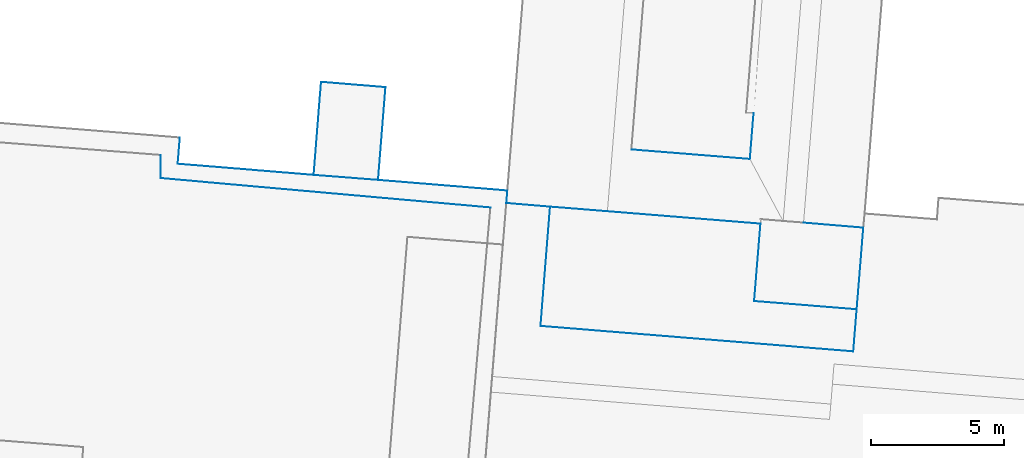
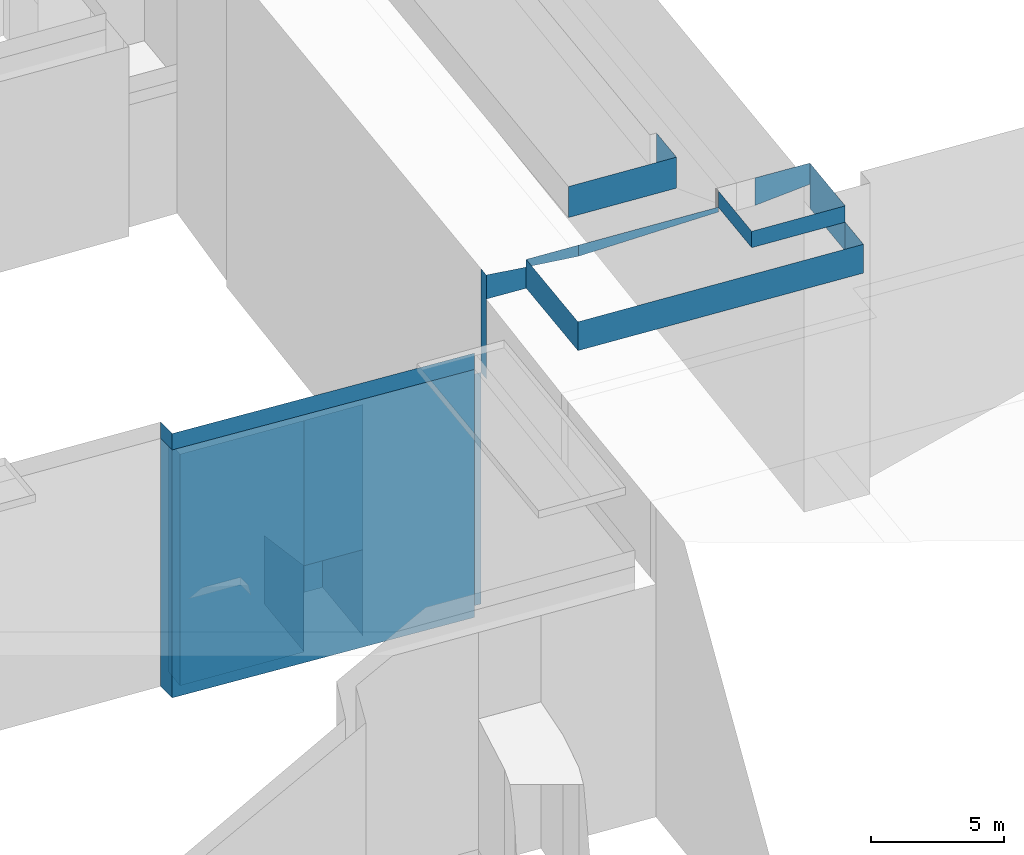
# Not in any storey, part 71 of 136: 26 walls.
"""IFC4 building model written with IfcOpenShell, lengths in metres."""

import ifcopenshell
import ifcopenshell.guid

model = None  # the IFC model being written
_history = None  # IfcOwnerHistory: only IFC2X3 demands one
_inside = {}  # id of a spatial element -> (the spatial element, [elements in it])
_under = {}  # id of a project, library or spatial element -> (it, [spatial elements below it])
_declared = {}  # id of a project -> (the project, [libraries it declares])
_typed = {}  # id of a type object -> (the type object, [elements of that type])
_made_of = {}  # id of a material, layer set ... -> (it, [elements and type objects made of it])


def new_model(schema):
    """Start an empty IFC model of exactly this schema.

    Asked for "IFC4X3", IfcOpenShell would pick the latest addendum, in which some entities
    have other attributes; the version numbers below select the first issue.
    IFC2X3 requires an IfcOwnerHistory on every rooted entity: one is made here for all.
    """
    global model, _history
    if schema == "IFC4X3":
        model = ifcopenshell.file(schema_version=(4, 3, 0, 0))
    else:
        model = ifcopenshell.file(schema=schema)
    _inside.clear()
    _under.clear()
    _declared.clear()
    _typed.clear()
    _made_of.clear()
    _history = None
    if model.schema == "IFC2X3":
        org = make("IfcOrganization", Name="unknown")
        user = make(
            "IfcPersonAndOrganization",
            ThePerson=make("IfcPerson", FamilyName="unknown"),
            TheOrganization=org,
        )
        app = make(
            "IfcApplication",
            ApplicationDeveloper=org,
            Version="unknown",
            ApplicationFullName="unknown",
            ApplicationIdentifier="unknown",
        )
        _history = make(
            "IfcOwnerHistory",
            OwningUser=user,
            OwningApplication=app,
            ChangeAction="ADDED",
            CreationDate=0,
        )
    return model


def make(cls, **values):
    """One entity of the class cls with the attributes given. An attribute that is None is left unset."""
    return model.create_entity(
        cls, **{name: value for name, value in values.items() if value is not None}
    )


def entity(cls, *values):
    """Any entity or typed value of the class cls, its attributes in the order of the schema. None: left unset."""
    e = model.create_entity(cls)
    for i, value in enumerate(values):
        if value is not None:
            e[i] = value
    return e


def rooted(cls, **values):
    """An entity with a GlobalId (a new one), such as an element, a storey or a relation."""
    return make(cls, GlobalId=ifcopenshell.guid.new(), OwnerHistory=_history, **values)


def si_unit(unit_type, name, prefix=None):
    """IfcSIUnit, for example si_unit("LENGTHUNIT", "METRE", prefix="MILLI")."""
    return make("IfcSIUnit", UnitType=unit_type, Prefix=prefix, Name=name)


def converted_unit(unit_type, name, factor, base, dimensions=None, offset=None):
    """IfcConversionBasedUnit, such as the inch: factor (a typed value) times the base unit."""
    return make(
        "IfcConversionBasedUnit"
        if offset is None
        else "IfcConversionBasedUnitWithOffset",
        ConversionOffset=offset,
        Dimensions=None
        if dimensions is None
        else entity("IfcDimensionalExponents", *dimensions),
        UnitType=unit_type,
        Name=name,
        ConversionFactor=make(
            "IfcMeasureWithUnit", ValueComponent=factor, UnitComponent=base
        ),
    )


def assignment(units):
    """IfcUnitAssignment: the units of a project."""
    return None if units is None else make("IfcUnitAssignment", Units=units)


def point(xyz):
    """IfcCartesianPoint."""
    return None if xyz is None else make("IfcCartesianPoint", Coordinates=xyz)


def direction(xyz):
    """IfcDirection."""
    return None if xyz is None else make("IfcDirection", DirectionRatios=xyz)


def frame(location, z_axis=None, x_axis=None):
    """IfcAxis2Placement3D, a coordinate frame: its origin and axes. An axis left out is left unset."""
    return make(
        "IfcAxis2Placement3D",
        Location=point(location),
        Axis=direction(z_axis),
        RefDirection=direction(x_axis),
    )


def origin():
    """The frame at (0, 0, 0) with its axes left unset."""
    return frame((0.0, 0.0, 0.0))


def place(relative_to, where):
    """IfcLocalPlacement: puts the frame where relative to a parent placement (None: the world)."""
    return make(
        "IfcLocalPlacement", PlacementRelTo=relative_to, RelativePlacement=where
    )


def context(
    kind, dimensions, precision=None, world=None, true_north=None, identifier=None
):
    """IfcGeometricRepresentationContext, for example the 3D "Model" context."""
    return make(
        "IfcGeometricRepresentationContext",
        ContextIdentifier=identifier,
        ContextType=kind,
        CoordinateSpaceDimension=dimensions,
        Precision=precision,
        WorldCoordinateSystem=world,
        TrueNorth=true_north,
    )


def subcontext(parent, identifier, kind, view, scale=None):
    """IfcGeometricRepresentationSubContext, for example "Body" below "Model"."""
    return make(
        "IfcGeometricRepresentationSubContext",
        ContextIdentifier=identifier,
        ContextType=kind,
        ParentContext=parent,
        TargetScale=scale,
        TargetView=view,
    )


def project(units=None, contexts=None):
    """IfcProject with its units and contexts."""
    return rooted(
        "IfcProject",
        Name="project",
        RepresentationContexts=contexts,
        UnitsInContext=assignment(units),
    )


def spatial(cls, under=None, at=None, **own):
    """A site, building, storey or space (cls), placed at a placement, below another one or the project."""
    s = rooted(cls, ObjectPlacement=at, **own)
    if under is not None:
        _under.setdefault(under.id(), (under, []))[1].append(s)
    return s


def faces_of(points, faces, orient=None, outer=None):
    """IfcFace entities. A face is a list of loops; a loop is a list of indices into points, from 0.

    orient and outer hold one flag for each loop. By default every Orientation is true, the
    first loop of a face is its IfcFaceOuterBound and the others are IfcFaceBound.
    """
    made = []
    for i, loops in enumerate(faces):
        bounds = []
        for j, loop in enumerate(loops):
            is_outer = j == 0 if outer is None else outer[i][j]
            bounds.append(
                make(
                    "IfcFaceOuterBound" if is_outer else "IfcFaceBound",
                    Bound=make("IfcPolyLoop", Polygon=[points[k] for k in loop]),
                    Orientation=True if orient is None else orient[i][j],
                )
            )
        made.append(make("IfcFace", Bounds=bounds))
    return made


def face_set(faces, orient=None, outer=None):
    """The faces of one IfcConnectedFaceSet. surface_model builds it on its shared points."""
    return ("IfcConnectedFaceSet", faces, orient, outer)


def surface_model(cls, points, shells):
    """IfcFaceBasedSurfaceModel or IfcShellBasedSurfaceModel (cls): surfaces that need not close."""
    shared = [point(p) for p in points]
    made = [make(c, CfsFaces=faces_of(shared, fs, o, b)) for c, fs, o, b in shells]
    if cls == "IfcFaceBasedSurfaceModel":
        return make(cls, FbsmFaces=made)
    return make(cls, SbsmBoundary=made)


def shape(context_of_items, identifier, shape_type, items):
    """IfcShapeRepresentation: the items that make up one representation, for example the "Body"."""
    return make(
        "IfcShapeRepresentation",
        ContextOfItems=context_of_items,
        RepresentationIdentifier=identifier,
        RepresentationType=shape_type,
        Items=items,
    )


def made_of(thing, what):
    """Note that an element or type object is made of a material, layer set ...; save() writes the relation."""
    if what is not None:
        _made_of.setdefault(what.id(), (what, []))[1].append(thing)
    return thing


def element(
    cls,
    number,
    at=None,
    inside=None,
    cuts=None,
    type_object=None,
    material=None,
    context=None,
    identifier="Body",
    shape_type=None,
    held_by="IfcProductDefinitionShape",
    body=None,
    shapes=None,
    **own,
):
    """One element of the class cls, such as IfcWall. Its Tag is "e" and its number.

    at: its placement. inside: the storey or other place that contains it. cuts: it is an
    opening in that element (IfcRelVoidsElement). A single representation is given by context,
    identifier, shape_type and body (its items); several are given by shapes. held_by: the class
    of the entity that holds the representations. save() writes the other relations.
    """
    e = rooted(cls, Tag="e%d" % number, ObjectPlacement=at, **own)
    if body is not None:
        shapes = [shape(context, identifier, shape_type, body)]
    if shapes is not None:
        e.Representation = make(held_by, Representations=shapes)
    if inside is not None:
        _inside.setdefault(inside.id(), (inside, []))[1].append(e)
    if cuts is not None:
        rooted(
            "IfcRelVoidsElement", RelatingBuildingElement=cuts, RelatedOpeningElement=e
        )
    if type_object is not None:
        _typed.setdefault(type_object.id(), (type_object, []))[1].append(e)
    return made_of(e, material)


def aggregate(whole, parts):
    """IfcRelAggregates: a whole, such as a stair, and the parts it consists of."""
    return rooted("IfcRelAggregates", RelatingObject=whole, RelatedObjects=parts)


def save(model, path):
    """Write the relations noted so far, then the file.

    IfcRelAggregates (storeys below a building ...), IfcRelContainedInSpatialStructure (elements
    in a storey), IfcRelDefinesByType, IfcRelAssociatesMaterial and IfcRelDeclares: one each for
    every whole, place, type object, material and project.
    """
    for whole, parts in _under.values():
        aggregate(whole, parts)
    for where, things in _inside.values():
        rooted(
            "IfcRelContainedInSpatialStructure",
            RelatedElements=things,
            RelatingStructure=where,
        )
    for kind, things in _typed.values():
        rooted("IfcRelDefinesByType", RelatedObjects=things, RelatingType=kind)
    for what, things in _made_of.values():
        rooted("IfcRelAssociatesMaterial", RelatedObjects=things, RelatingMaterial=what)
    for by, libraries in _declared.values():
        rooted("IfcRelDeclares", RelatingContext=by, RelatedDefinitions=libraries)
    model.write(path)


model = new_model("IFC4")

# Units and contexts
model_context = context("Model", 3, precision=1e-05, world=origin())
body_context = subcontext(model_context, "Body", "Model", "MODEL_VIEW")
ifc_project = project(units=[converted_unit("PLANEANGLEUNIT", "DEGREE", entity("IfcRatioMeasure", 0.0174532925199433), si_unit("PLANEANGLEUNIT", "RADIAN"), dimensions=[0, 0, 0, 0, 0, 0, 0]), si_unit("AREAUNIT", "SQUARE_METRE"), si_unit("LENGTHUNIT", "METRE")], contexts=[model_context])

# Site, building
site_placement = place(None, origin())
site = spatial("IfcSite", under=ifc_project, at=site_placement, Name="_site")
building_placement = place(site_placement, origin())
building = spatial("IfcBuilding", under=site, at=building_placement, Name="_building")

# Walls
wall_1_placement = place(building_placement, origin())
element("IfcWall", 1, at=wall_1_placement, inside=building, Name="Wall", PredefinedType="NOTDEFINED", context=body_context, shape_type="SurfaceModel", body=[
    surface_model("IfcFaceBasedSurfaceModel", [(224.3, 64.919, 54.32), (226.56, 64.73, 54.32), (226.56, 64.73, 53.35), (224.3, 64.919, 53.06)], [face_set([[[0, 1, 2, 3]]])]),
])
wall_2_placement = place(building_placement, origin())
element("IfcWall", 2, at=wall_2_placement, inside=building, Name="Wall", PredefinedType="NOTDEFINED", context=body_context, shape_type="SurfaceModel", body=[
    surface_model("IfcFaceBasedSurfaceModel", [(226.18, 60.061, 53.57), (214.38, 61.021, 53.57), (214.38, 61.021, 52.25), (226.18, 60.061, 52.25)], [face_set([[[0, 1, 2, 3]]])]),
])
wall_3_placement = place(building_placement, origin())
element("IfcWall", 3, at=wall_3_placement, inside=building, Name="Wall", PredefinedType="NOTDEFINED", context=body_context, shape_type="SurfaceModel", body=[
    surface_model("IfcFaceBasedSurfaceModel", [(208.25, 66.53, 48.6), (213.13, 66.13, 48.6), (213.13, 66.13, 38.0), (208.25, 66.53, 38.0)], [face_set([[[0, 1, 2, 3]]])]),
])
wall_4_placement = place(building_placement, origin())
element("IfcWall", 4, at=wall_4_placement, inside=building, Name="Wall", PredefinedType="NOTDEFINED", context=body_context, shape_type="SurfaceModel", body=[
    surface_model("IfcFaceBasedSurfaceModel", [(222.44, 61.96, 54.32), (222.68, 64.88, 54.32), (222.68, 64.88, 53.57), (222.44, 61.96, 53.57)], [face_set([[[0, 1, 2, 3]]])]),
])
wall_5_placement = place(building_placement, origin())
element("IfcWall", 5, at=wall_5_placement, inside=building, Name="Wall", PredefinedType="NOTDEFINED", context=body_context, shape_type="SurfaceModel", body=[
    surface_model("IfcFaceBasedSurfaceModel", [(226.31, 61.65, 54.32), (222.44, 61.96, 54.32), (222.44, 61.96, 53.57), (226.31, 61.65, 53.57)], [face_set([[[0, 1, 2, 3]]])]),
])
wall_6_placement = place(building_placement, origin())
element("IfcWall", 6, at=wall_6_placement, inside=building, Name="Wall", PredefinedType="NOTDEFINED", context=body_context, shape_type="SurfaceModel", body=[
    surface_model("IfcFaceBasedSurfaceModel", [(205.82, 66.72, 48.6), (208.25, 66.53, 48.6), (208.25, 66.53, 41.95), (205.82, 66.72, 41.95)], [face_set([[[0, 1, 2, 3]]])]),
])
wall_7_placement = place(building_placement, origin())
element("IfcWall", 7, at=wall_7_placement, inside=building, Name="Wall", PredefinedType="NOTDEFINED", context=body_context, shape_type="SurfaceModel", body=[
    surface_model("IfcFaceBasedSurfaceModel", [(206.1, 70.23, 41.13), (208.53, 70.03, 41.13), (208.53, 70.03, 38.0), (206.1, 70.23, 38.0)], [face_set([[[0, 1, 2, 3]]])]),
])
wall_8_placement = place(building_placement, origin())
element("IfcWall", 8, at=wall_8_placement, inside=building, Name="Wall", PredefinedType="NOTDEFINED", context=body_context, shape_type="SurfaceModel", body=[
    surface_model("IfcFaceBasedSurfaceModel", [(200.04, 66.601, 49.344), (212.49, 65.49, 49.344), (212.49, 65.49, 50.094), (200.04, 66.601, 50.094)], [face_set([[[0, 1, 2, 3]]])]),
])
wall_9_placement = place(building_placement, origin())
element("IfcWall", 9, at=wall_9_placement, inside=building, Name="Wall", PredefinedType="NOTDEFINED", context=body_context, shape_type="SurfaceModel", body=[
    surface_model("IfcFaceBasedSurfaceModel", [(200.04, 67.47, 49.344), (200.04, 66.601, 49.344), (200.04, 66.601, 50.094), (200.04, 67.47, 50.094)], [face_set([[[0, 1, 2, 3]]])]),
])
wall_10_placement = place(building_placement, origin())
element("IfcWall", 10, at=wall_10_placement, inside=building, Name="Wall", PredefinedType="NOTDEFINED", context=body_context, shape_type="SurfaceModel", body=[
    surface_model("IfcFaceBasedSurfaceModel", [(222.42, 69.061, 54.52), (222.28, 67.32, 54.52), (222.28, 67.32, 53.1), (222.42, 69.061, 53.1)], [face_set([[[0, 1, 2, 3]]])]),
])
wall_11_placement = place(building_placement, origin())
element("IfcWall", 11, at=wall_11_placement, inside=building, Name="Wall", PredefinedType="NOTDEFINED", context=body_context, shape_type="SurfaceModel", body=[
    surface_model("IfcFaceBasedSurfaceModel", [(216.9, 65.349, 53.57), (222.68, 64.88, 53.57), (222.68, 64.88, 53.35), (216.9, 65.349, 53.06)], [face_set([[[0, 1, 2, 3]]])]),
])
wall_12_placement = place(building_placement, origin())
element("IfcWall", 12, at=wall_12_placement, inside=building, Name="Wall", PredefinedType="NOTDEFINED", context=body_context, shape_type="SurfaceModel", body=[
    surface_model("IfcFaceBasedSurfaceModel", [(214.74, 65.521, 53.57), (216.9, 65.349, 53.57), (216.9, 65.349, 53.06), (214.74, 65.521, 53.22)], [face_set([[[0, 1, 2, 3]]])]),
])
wall_13_placement = place(building_placement, origin())
element("IfcWall", 13, at=wall_13_placement, inside=building, Name="Wall", PredefinedType="NOTDEFINED", context=body_context, shape_type="SurfaceModel", body=[
    surface_model("IfcFaceBasedSurfaceModel", [(200.69, 67.14, 48.6), (205.82, 66.72, 48.6), (205.82, 66.72, 38.0), (200.69, 67.14, 38.0)], [face_set([[[0, 1, 2, 3]]])]),
])
wall_14_placement = place(building_placement, origin())
element("IfcWall", 14, at=wall_14_placement, inside=building, Name="Wall", PredefinedType="NOTDEFINED", context=body_context, shape_type="SurfaceModel", body=[
    surface_model("IfcFaceBasedSurfaceModel", [(200.04, 67.47, 49.344), (200.04, 66.601, 49.344), (200.04, 66.601, 38.0), (200.04, 67.47, 38.0)], [face_set([[[0, 1, 2, 3]]])]),
])
wall_15_placement = place(building_placement, origin())
element("IfcWall", 15, at=wall_15_placement, inside=building, Name="Wall", PredefinedType="NOTDEFINED", context=body_context, shape_type="SurfaceModel", body=[
    surface_model("IfcFaceBasedSurfaceModel", [(213.09, 65.66, 53.35), (213.13, 66.13, 53.35), (213.13, 66.13, 48.6), (213.09, 65.66, 48.6)], [face_set([[[0, 1, 2, 3]]])]),
])
wall_16_placement = place(building_placement, origin())
element("IfcWall", 16, at=wall_16_placement, inside=building, Name="Wall", PredefinedType="NOTDEFINED", context=body_context, shape_type="SurfaceModel", body=[
    surface_model("IfcFaceBasedSurfaceModel", [(200.04, 67.47, 49.344), (200.04, 66.601, 49.344), (200.04, 66.601, 50.094), (200.04, 67.47, 50.094)], [face_set([[[0, 1, 2, 3]]])]),
])
wall_17_placement = place(building_placement, origin())
element("IfcWall", 17, at=wall_17_placement, inside=building, Name="Wall", PredefinedType="NOTDEFINED", context=body_context, shape_type="SurfaceModel", body=[
    surface_model("IfcFaceBasedSurfaceModel", [(200.77, 68.13, 48.6), (200.69, 67.14, 48.6), (200.69, 67.14, 38.0), (200.77, 68.13, 38.0)], [face_set([[[0, 1, 2, 3]]])]),
])
wall_18_placement = place(building_placement, origin())
element("IfcWall", 18, at=wall_18_placement, inside=building, Name="Wall", PredefinedType="NOTDEFINED", context=body_context, shape_type="SurfaceModel", body=[
    surface_model("IfcFaceBasedSurfaceModel", [(226.56, 64.73, 54.32), (226.31, 61.65, 54.32), (226.31, 61.65, 52.25), (226.56, 64.73, 52.25)], [face_set([[[0, 1, 2, 3]]])]),
])
wall_19_placement = place(building_placement, origin())
element("IfcWall", 19, at=wall_19_placement, inside=building, Name="Wall", PredefinedType="NOTDEFINED", context=body_context, shape_type="SurfaceModel", body=[
    surface_model("IfcFaceBasedSurfaceModel", [(222.28, 67.32, 54.52), (217.81, 67.68, 54.52), (217.81, 67.68, 53.1), (222.28, 67.32, 53.1)], [face_set([[[0, 1, 2, 3]]])]),
])
wall_20_placement = place(building_placement, origin())
element("IfcWall", 20, at=wall_20_placement, inside=building, Name="Wall", PredefinedType="NOTDEFINED", context=body_context, shape_type="SurfaceModel", body=[
    surface_model("IfcFaceBasedSurfaceModel", [(214.74, 65.521, 53.22), (213.09, 65.66, 53.35), (213.09, 65.66, 52.25), (214.74, 65.521, 52.25)], [face_set([[[0, 1, 2, 3]]])]),
])
wall_21_placement = place(building_placement, origin())
element("IfcWall", 21, at=wall_21_placement, inside=building, Name="Wall", PredefinedType="NOTDEFINED", context=body_context, shape_type="SurfaceModel", body=[
    surface_model("IfcFaceBasedSurfaceModel", [(200.04, 66.601, 49.344), (212.49, 65.49, 49.344), (212.49, 65.49, 50.094), (200.04, 66.601, 50.094)], [face_set([[[0, 1, 2, 3]]])]),
])
wall_22_placement = place(building_placement, origin())
element("IfcWall", 22, at=wall_22_placement, inside=building, Name="Wall", PredefinedType="NOTDEFINED", context=body_context, shape_type="SurfaceModel", body=[
    surface_model("IfcFaceBasedSurfaceModel", [(200.04, 66.601, 49.344), (212.49, 65.49, 49.344), (212.49, 65.49, 38.0), (200.04, 66.601, 38.0)], [face_set([[[0, 1, 2, 3]]])]),
])
wall_23_placement = place(building_placement, origin())
element("IfcWall", 23, at=wall_23_placement, inside=building, Name="Wall", PredefinedType="NOTDEFINED", context=body_context, shape_type="SurfaceModel", body=[
    surface_model("IfcFaceBasedSurfaceModel", [(226.31, 61.65, 53.57), (226.18, 60.061, 53.57), (226.18, 60.061, 52.25), (226.31, 61.65, 52.25)], [face_set([[[0, 1, 2, 3]]])]),
])
wall_24_placement = place(building_placement, origin())
element("IfcWall", 24, at=wall_24_placement, inside=building, Name="Wall", PredefinedType="NOTDEFINED", context=body_context, shape_type="SurfaceModel", body=[
    surface_model("IfcFaceBasedSurfaceModel", [(214.38, 61.021, 53.57), (214.74, 65.521, 53.57), (214.74, 65.521, 52.25), (214.38, 61.021, 52.25)], [face_set([[[0, 1, 2, 3]]])]),
])
wall_25_placement = place(building_placement, origin())
element("IfcWall", 25, at=wall_25_placement, inside=building, Name="Wall", PredefinedType="NOTDEFINED", context=body_context, shape_type="SurfaceModel", body=[
    surface_model("IfcFaceBasedSurfaceModel", [(208.53, 70.03, 41.13), (208.25, 66.53, 41.95), (208.25, 66.53, 38.0), (208.53, 70.03, 38.0)], [face_set([[[0, 1, 2, 3]]])]),
])
wall_26_placement = place(building_placement, origin())
element("IfcWall", 26, at=wall_26_placement, inside=building, Name="Wall", PredefinedType="NOTDEFINED", context=body_context, shape_type="SurfaceModel", body=[
    surface_model("IfcFaceBasedSurfaceModel", [(205.82, 66.72, 41.95), (206.1, 70.23, 41.13), (206.1, 70.23, 38.0), (205.82, 66.72, 38.0)], [face_set([[[0, 1, 2, 3]]])]),
])

save(model, "model.ifc")
